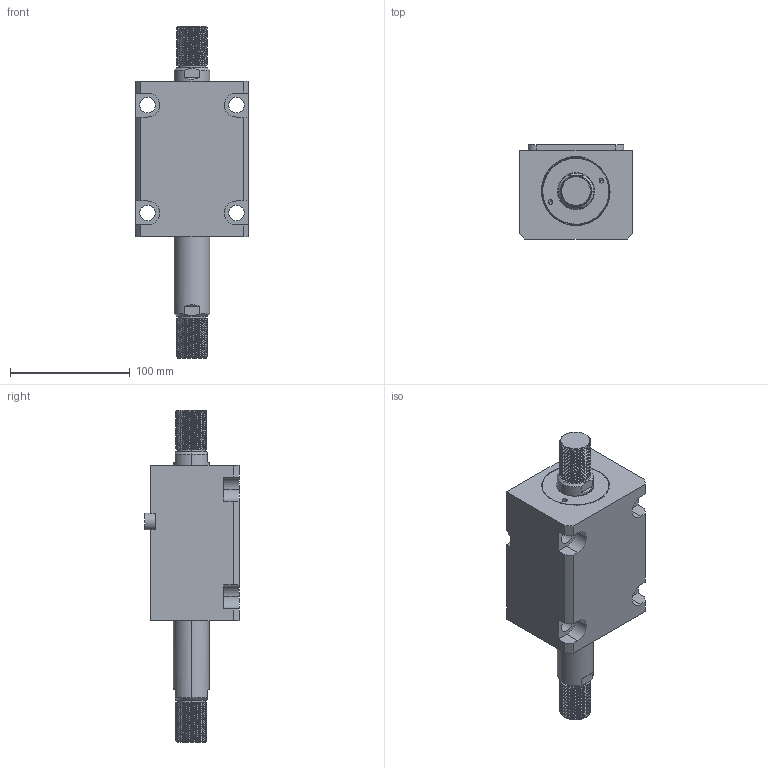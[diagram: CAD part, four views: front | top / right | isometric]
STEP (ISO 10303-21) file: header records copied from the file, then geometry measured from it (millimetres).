
FILE_DESCRIPTION (( 'STEP AP203' ), '1' );
FILE_NAME ('CHTB-LWM50-55W.STEP', '2018-05-22T07:48:05', ( '' ), ( '' ), 'SwSTEP 2.0', 'SolidWorks 2015', '' );
FILE_SCHEMA (( 'CONFIG_CONTROL_DESIGN' ));
Length unit declared in the file: millimetre
Products named in the file (4): 掛极LWM50-55W; CHTB-LWM50-55W; 活塞杆LWM50-55W; CHTM-SDMA50QG
Assembly tree (3 placements, depth 2):
  CHTB-LWM50-55W
    掛极LWM50-55W
    活塞杆LWM50-55W
    CHTM-SDMA50QG
Bounding box: 94 x 79 x 277 mm (x, y, z)
Volume: 870219.7 mm3; surface area: 137011.5 mm2
Topology: 3 solids, 3 shells, 302 faces, 837 edges, 557 vertices
Faces by surface type: cylinder 188, plane 62, cone 18, bspline 18, torus 16
Entity records: 19248 total; most frequent: CARTESIAN_POINT 11864, ORIENTED_EDGE 1666, DIRECTION 1265, EDGE_CURVE 833, VERTEX_POINT 557, AXIS2_PLACEMENT_3D 483, EDGE_LOOP 338, FACE_OUTER_BOUND 302
